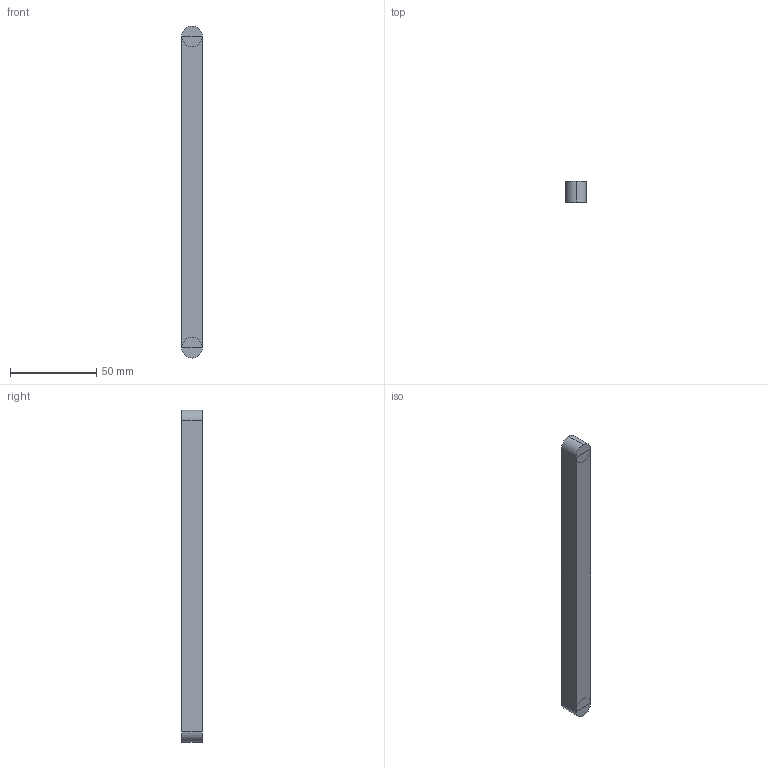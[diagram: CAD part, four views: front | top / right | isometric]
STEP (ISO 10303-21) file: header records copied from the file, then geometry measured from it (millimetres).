
FILE_DESCRIPTION(('Open CASCADE Model'),'2;1');
FILE_NAME('Open CASCADE Shape Model','2026-10-20T13:19:35',('Author'),( 'Open CASCADE'),'Open CASCADE STEP processor 7.9','Open CASCADE 7.9' ,'Unknown');
FILE_SCHEMA(('AUTOMOTIVE_DESIGN { 1 0 10303 214 1 1 1 1 }'));
Length unit declared in the file: millimetre
Products named in the file (1): Open CASCADE STEP translator 7.9 71
Bounding box: 12 x 12 x 192.7 mm (x, y, z)
Volume: 27378 mm3; surface area: 9352.2 mm2
Topology: 1 solids, 1 shells, 15 faces, 25 edges, 12 vertices
Faces by surface type: plane 12, cylinder 3
Entity records: 674 total; most frequent: DIRECTION 119, CARTESIAN_POINT 103, ORIENTED_EDGE 50, PCURVE 50, DEFINITIONAL_REPRESENTATION 50, LINE 45, VECTOR 45, CIRCLE 30
